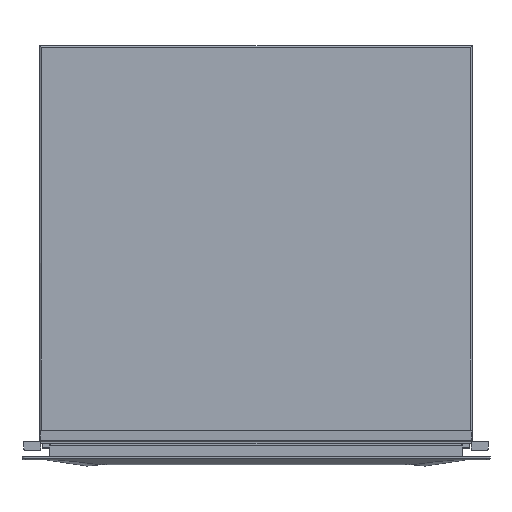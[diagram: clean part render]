
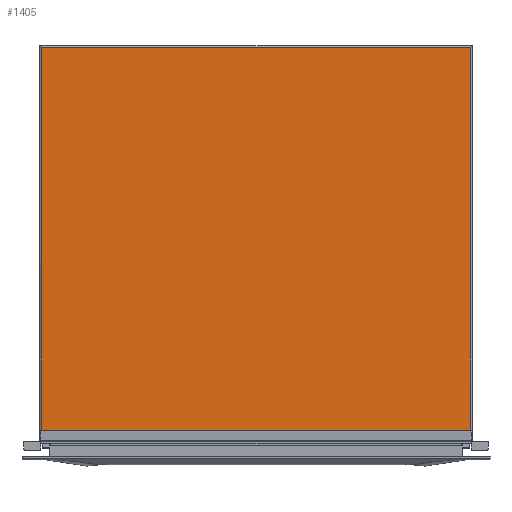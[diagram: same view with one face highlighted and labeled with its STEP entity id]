
A CAD part, front view. The second image highlights one B-rep face of the part: STEP entity #1405.
In plain terms, the highlighted planar face has unit normal (0, -1, 0).
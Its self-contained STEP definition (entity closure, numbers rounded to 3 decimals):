
#204 = ORIENTED_EDGE ( 'NONE', *, *, #247, .T. ) ;
#247 = EDGE_CURVE ( 'NONE', #3657, #666, #4436, .T. ) ;
#276 = FACE_OUTER_BOUND ( 'NONE', #1600, .T. ) ;
#433 = DIRECTION ( 'NONE',  ( 0., 0., 1. ) ) ;
#530 = CARTESIAN_POINT ( 'NONE',  ( -273.95, 0., -489.15 ) ) ;
#666 = VERTEX_POINT ( 'NONE', #3437 ) ;
#678 = EDGE_CURVE ( 'NONE', #666, #4633, #2531, .T. ) ;
#732 = VERTEX_POINT ( 'NONE', #530 ) ;
#837 = VECTOR ( 'NONE', #4349, 1000. ) ;
#872 = CARTESIAN_POINT ( 'NONE',  ( -273.95, 0., 0. ) ) ;
#978 = VECTOR ( 'NONE', #5264, 1000. ) ;
#1179 = ORIENTED_EDGE ( 'NONE', *, *, #1408, .T. ) ;
#1235 = DIRECTION ( 'NONE',  ( -1., 0., 0. ) ) ;
#1296 = LINE ( 'NONE', #872, #978 ) ;
#1390 = EDGE_CURVE ( 'NONE', #3657, #732, #5669, .T. ) ;
#1405 = ADVANCED_FACE ( 'NONE', ( #276 ), #1713, .F. ) ;
#1408 = EDGE_CURVE ( 'NONE', #4633, #732, #1296, .T. ) ;
#1600 = EDGE_LOOP ( 'NONE', ( #3173, #1179, #1704, #204 ) ) ;
#1638 = AXIS2_PLACEMENT_3D ( 'NONE', #2215, #2629, #433 ) ;
#1704 = ORIENTED_EDGE ( 'NONE', *, *, #1390, .F. ) ;
#1713 = PLANE ( 'NONE',  #1638 ) ;
#2215 = CARTESIAN_POINT ( 'NONE',  ( 275.75, 0., 0. ) ) ;
#2531 = LINE ( 'NONE', #3843, #4893 ) ;
#2629 = DIRECTION ( 'NONE',  ( 0., 1., 0. ) ) ;
#3078 = CARTESIAN_POINT ( 'NONE',  ( 273.95, 0., -489.15 ) ) ;
#3173 = ORIENTED_EDGE ( 'NONE', *, *, #678, .T. ) ;
#3437 = CARTESIAN_POINT ( 'NONE',  ( 273.95, 0., -0.8 ) ) ;
#3515 = DIRECTION ( 'NONE',  ( -1., 0., 0. ) ) ;
#3657 = VERTEX_POINT ( 'NONE', #3078 ) ;
#3784 = CARTESIAN_POINT ( 'NONE',  ( -273.95, 0., -0.8 ) ) ;
#3843 = CARTESIAN_POINT ( 'NONE',  ( 275.75, 0., -0.8 ) ) ;
#4349 = DIRECTION ( 'NONE',  ( 0., 0., 1. ) ) ;
#4436 = LINE ( 'NONE', #4762, #837 ) ;
#4633 = VERTEX_POINT ( 'NONE', #3784 ) ;
#4762 = CARTESIAN_POINT ( 'NONE',  ( 273.95, 0., 1. ) ) ;
#4893 = VECTOR ( 'NONE', #1235, 1000. ) ;
#5264 = DIRECTION ( 'NONE',  ( 0., 0., -1. ) ) ;
#5318 = CARTESIAN_POINT ( 'NONE',  ( 275.75, 0., -489.15 ) ) ;
#5386 = VECTOR ( 'NONE', #3515, 1000. ) ;
#5669 = LINE ( 'NONE', #5318, #5386 ) ;
